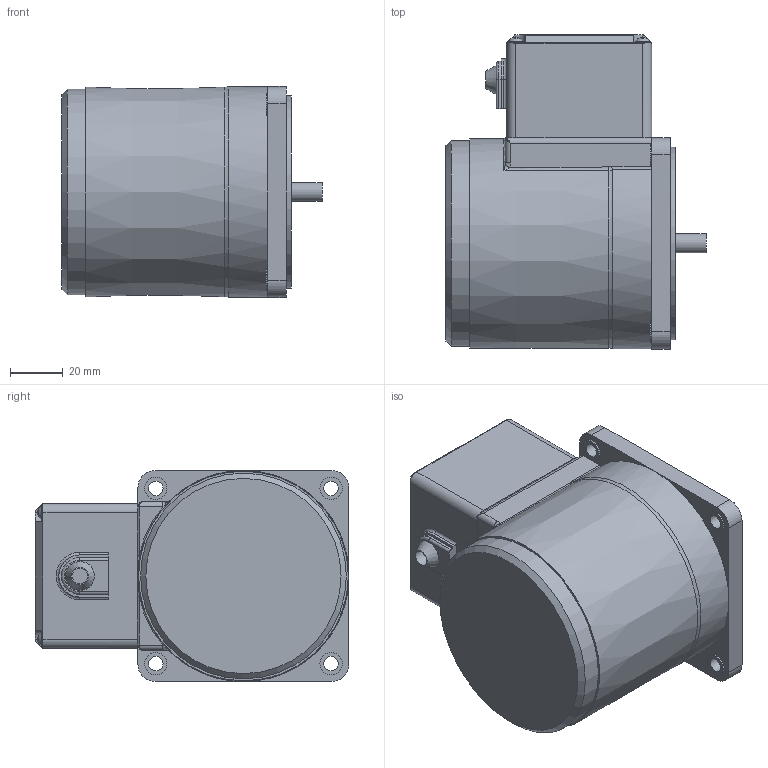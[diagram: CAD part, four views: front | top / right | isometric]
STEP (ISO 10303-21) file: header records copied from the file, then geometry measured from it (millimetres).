
FILE_DESCRIPTION((''),'2;1');
FILE_NAME('D:\STP파일\25W MOTOR\T1 BOX TYPE\S8I15G-T1.stp','2013-05-20T16:42:59',('leebh'),(''),'Autodesk Inventor 2011','Autodesk Inventor 2011','');
FILE_SCHEMA(('AUTOMOTIVE_DESIGN { 1 0 10303 214 1 1 1 1 }'));
Length unit declared in the file: millimetre
Products named in the file (1): 부품3
Bounding box: 98.6 x 119 x 80 mm (x, y, z)
Volume: 556122.1 mm3; surface area: 46380.7 mm2
Topology: 1 solids, 2 shells, 216 faces, 544 edges, 345 vertices
Faces by surface type: plane 124, cylinder 58, bspline 19, torus 12, cone 3
Full cylindrical faces by diameter (mm): 5.5 x4, 5.6 x4, 7.2 x1, 8 x1, 8.5 x4, 34 x1, 73 x1, 78 x1
Entity records: 6978 total; most frequent: CARTESIAN_POINT 1945, ORIENTED_EDGE 1004, DIRECTION 980, EDGE_CURVE 502, AXIS2_PLACEMENT_3D 353, VERTEX_POINT 339, VECTOR 274, LINE 274
